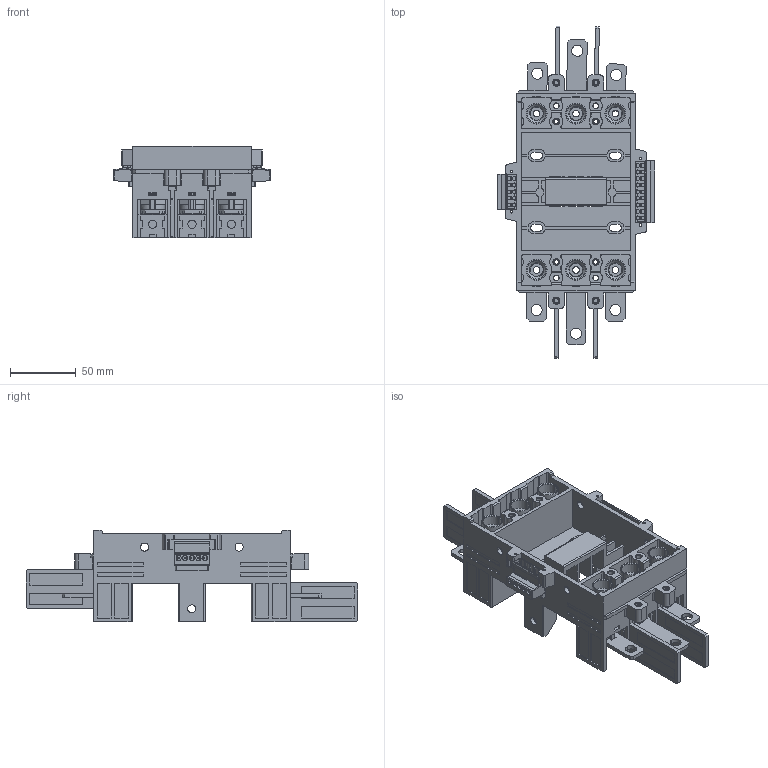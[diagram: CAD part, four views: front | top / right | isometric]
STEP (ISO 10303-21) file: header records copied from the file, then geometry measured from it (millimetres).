
FILE_DESCRIPTION (( 'STEP AP203' ), '1' );
FILE_NAME ('NDM5-125 160 -3P-W1FH.STEP', '2023-11-07T11:09:14', ( '' ), ( '' ), 'SwSTEP 2.0', 'SolidWorks 2018', '' );
FILE_SCHEMA (( 'CONFIG_CONTROL_DESIGN' ));
Length unit declared in the file: millimetre
Products named in the file (1): NDM5-125 160 -3P-W1FH
Bounding box: 120.2 x 252.73 x 70 mm (x, y, z)
Volume: 287768.3 mm3; surface area: 241126.6 mm2
Topology: 49 solids, 49 shells, 3660 faces, 10216 edges, 6598 vertices
Faces by surface type: plane 2292, cylinder 946, bspline 252, cone 142, torus 28
Entity records: 128585 total; most frequent: CARTESIAN_POINT 35733, ORIENTED_EDGE 20156, DIRECTION 18190, EDGE_CURVE 10078, VERTEX_POINT 6598, VECTOR 6528, LINE 6528, AXIS2_PLACEMENT_3D 5831
